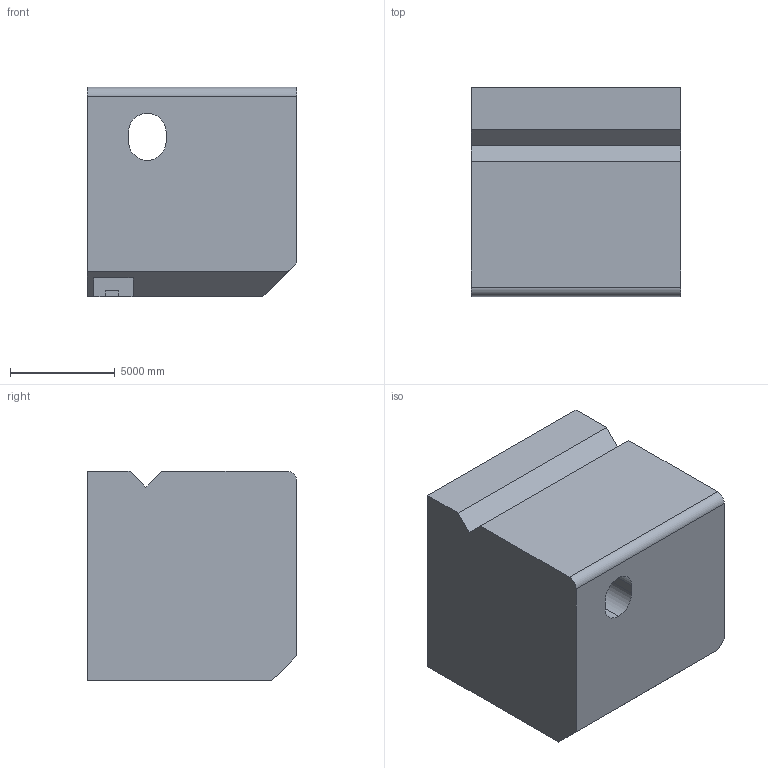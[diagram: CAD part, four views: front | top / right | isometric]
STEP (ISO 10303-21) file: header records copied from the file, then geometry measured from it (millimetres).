
FILE_DESCRIPTION (( 'STEP AP203' ), '1' );
FILE_NAME ('174.STEP', '2022-09-06T12:39:26', ( 'user' ), ( '' ), 'SwSTEP 2.0', 'SolidWorks 2021', '' );
FILE_SCHEMA (( 'CONFIG_CONTROL_DESIGN' ));
Length unit declared in the file: centimetre
Products named in the file (1): 174
Bounding box: 10000 x 10000 x 10000 mm (x, y, z)
Volume: 933838416822.4 mm3; surface area: 662042516.6 mm2
Topology: 1 solids, 1 shells, 29 faces, 81 edges, 54 vertices
Faces by surface type: plane 24, cylinder 5
Entity records: 1006 total; most frequent: CARTESIAN_POINT 165, ORIENTED_EDGE 162, DIRECTION 151, EDGE_CURVE 81, VECTOR 71, LINE 71, VERTEX_POINT 54, AXIS2_PLACEMENT_3D 40
